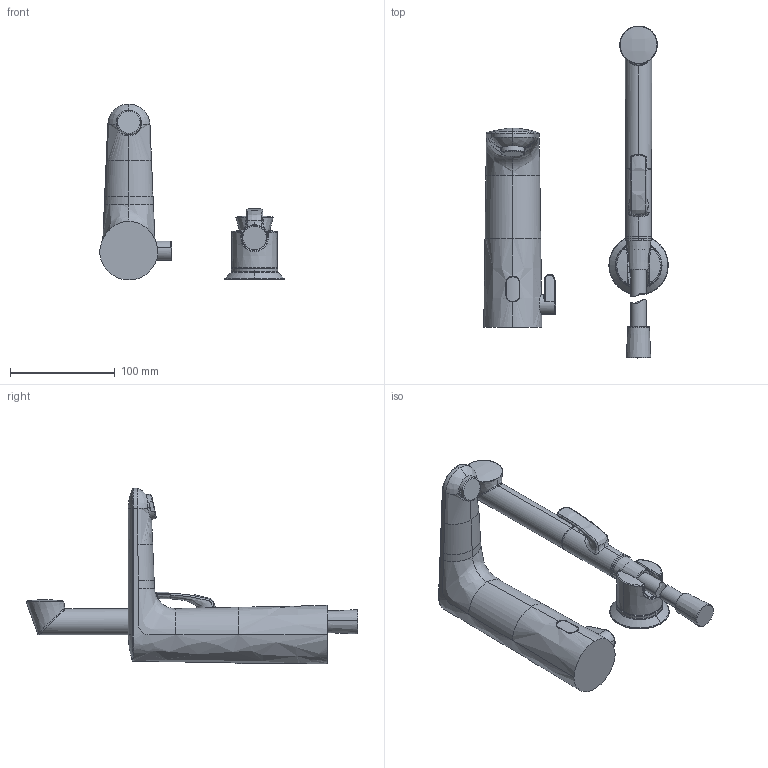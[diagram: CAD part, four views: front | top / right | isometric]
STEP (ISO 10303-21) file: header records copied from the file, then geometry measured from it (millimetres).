
FILE_DESCRIPTION (( 'STEP AP203' ), '1' );
FILE_NAME ('9362FZ(2023)+9382BFZ(2023).STEP', '2023-04-27T10:53:45', ( '' ), ( '' ), 'SwSTEP 2.0', 'SolidWorks 2016', '' );
FILE_SCHEMA (( 'CONFIG_CONTROL_DESIGN' ));
Length unit declared in the file: millimetre
Products named in the file (1): 9362FZ(2023)+9382BFZ(2023)
Bounding box: 176.09 x 316.75 x 167.93 mm (x, y, z)
Volume: 727430.5 mm3; surface area: 96990.2 mm2
Topology: 11 solids, 11 shells, 260 faces, 627 edges, 393 vertices
Faces by surface type: bspline 147, plane 41, cylinder 35, torus 20, cone 17
Entity records: 39599 total; most frequent: CARTESIAN_POINT 34659, ORIENTED_EDGE 1250, DIRECTION 641, EDGE_CURVE 625, VERTEX_POINT 393, B_SPLINE_CURVE_WITH_KNOTS 348, AXIS2_PLACEMENT_3D 275, EDGE_LOOP 266
